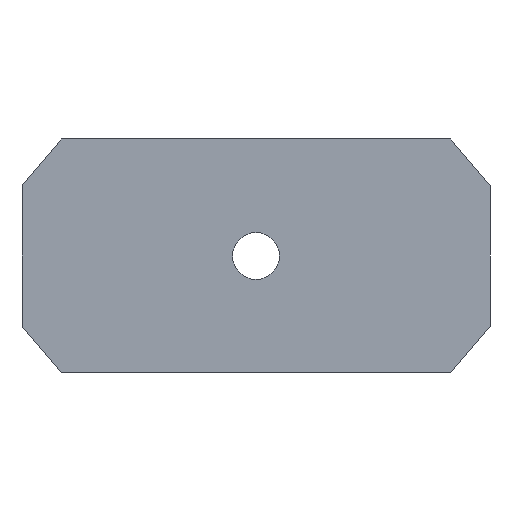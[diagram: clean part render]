
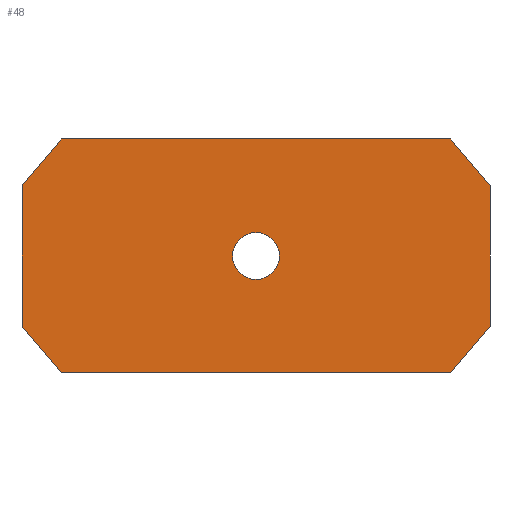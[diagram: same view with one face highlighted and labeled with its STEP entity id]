
A CAD part, front view. The second image highlights one B-rep face of the part: STEP entity #48.
In plain terms, the highlighted planar face has unit normal (0, -1, 0).
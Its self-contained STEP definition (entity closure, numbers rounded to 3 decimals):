
#36=FACE_BOUND('',#78,.T.);
#37=FACE_BOUND('',#79,.T.);
#44=CIRCLE('',#243,2.5);
#48=ADVANCED_FACE('',(#36,#37),#60,.T.);
#60=PLANE('',#244);
#78=EDGE_LOOP('',(#97));
#79=EDGE_LOOP('',(#98,#99,#100,#101,#102,#103,#104,#105));
#97=ORIENTED_EDGE('',*,*,#170,.F.);
#98=ORIENTED_EDGE('',*,*,#168,.T.);
#99=ORIENTED_EDGE('',*,*,#171,.T.);
#100=ORIENTED_EDGE('',*,*,#172,.F.);
#101=ORIENTED_EDGE('',*,*,#173,.T.);
#102=ORIENTED_EDGE('',*,*,#174,.T.);
#103=ORIENTED_EDGE('',*,*,#175,.T.);
#104=ORIENTED_EDGE('',*,*,#176,.T.);
#105=ORIENTED_EDGE('',*,*,#177,.T.);
#149=VERTEX_POINT('',#318);
#150=VERTEX_POINT('',#320);
#151=VERTEX_POINT('',#324);
#152=VERTEX_POINT('',#326);
#153=VERTEX_POINT('',#328);
#154=VERTEX_POINT('',#330);
#155=VERTEX_POINT('',#332);
#156=VERTEX_POINT('',#334);
#157=VERTEX_POINT('',#336);
#168=EDGE_CURVE('',#150,#149,#195,.T.);
#170=EDGE_CURVE('',#151,#151,#44,.T.);
#171=EDGE_CURVE('',#149,#152,#197,.T.);
#172=EDGE_CURVE('',#153,#152,#198,.T.);
#173=EDGE_CURVE('',#153,#154,#199,.T.);
#174=EDGE_CURVE('',#154,#155,#200,.T.);
#175=EDGE_CURVE('',#155,#156,#201,.T.);
#176=EDGE_CURVE('',#156,#157,#202,.T.);
#177=EDGE_CURVE('',#157,#150,#203,.T.);
#195=LINE('',#319,#219);
#197=LINE('',#325,#221);
#198=LINE('',#327,#222);
#199=LINE('',#329,#223);
#200=LINE('',#331,#224);
#201=LINE('',#333,#225);
#202=LINE('',#335,#226);
#203=LINE('',#337,#227);
#219=VECTOR('',#261,1.);
#221=VECTOR('',#267,1.);
#222=VECTOR('',#268,1.);
#223=VECTOR('',#269,1.);
#224=VECTOR('',#270,1.);
#225=VECTOR('',#271,1.);
#226=VECTOR('',#272,1.);
#227=VECTOR('',#273,1.);
#243=AXIS2_PLACEMENT_3D('',#323,#265,#266);
#244=AXIS2_PLACEMENT_3D('',#338,#274,#275);
#261=DIRECTION('',(-1.,0.,0.));
#265=DIRECTION('',(0.,-1.,0.));
#266=DIRECTION('',(0.,0.,-1.));
#267=DIRECTION('',(-0.643,0.,-0.766));
#268=DIRECTION('',(0.,0.,1.));
#269=DIRECTION('',(0.643,0.,-0.766));
#270=DIRECTION('',(1.,0.,0.));
#271=DIRECTION('',(0.643,0.,0.766));
#272=DIRECTION('',(0.,0.,1.));
#273=DIRECTION('',(-0.643,0.,0.766));
#274=DIRECTION('',(0.,-1.,0.));
#275=DIRECTION('',(0.,0.,-1.));
#318=CARTESIAN_POINT('',(4.195,0.,25.));
#319=CARTESIAN_POINT('',(25.,0.,25.));
#320=CARTESIAN_POINT('',(45.805,0.,25.));
#323=CARTESIAN_POINT('',(25.,0.,12.5));
#324=CARTESIAN_POINT('',(25.,0.,10.));
#325=CARTESIAN_POINT('',(0.481,0.,20.574));
#326=CARTESIAN_POINT('',(0.,0.,20.));
#327=CARTESIAN_POINT('',(0.,0.,0.));
#328=CARTESIAN_POINT('',(0.,0.,5.));
#329=CARTESIAN_POINT('',(12.791,0.,-10.244));
#330=CARTESIAN_POINT('',(4.195,0.,0.));
#331=CARTESIAN_POINT('',(25.,0.,0.));
#332=CARTESIAN_POINT('',(45.805,0.,0.));
#333=CARTESIAN_POINT('',(37.209,0.,-10.244));
#334=CARTESIAN_POINT('',(50.,0.,5.));
#335=CARTESIAN_POINT('',(50.,0.,0.));
#336=CARTESIAN_POINT('',(50.,0.,20.));
#337=CARTESIAN_POINT('',(49.519,0.,20.574));
#338=CARTESIAN_POINT('',(25.,0.,0.));
